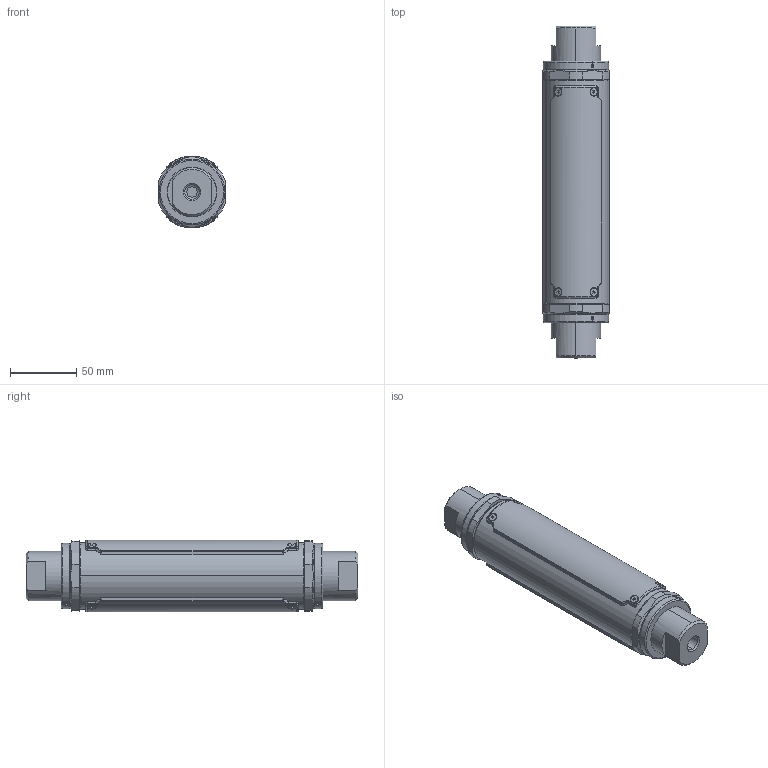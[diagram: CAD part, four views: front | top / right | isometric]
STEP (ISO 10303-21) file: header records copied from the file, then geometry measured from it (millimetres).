
FILE_DESCRIPTION (( 'STEP AP203' ), '1' );
FILE_NAME ('1644-D6-1-AA-0-0.STEP', '2022-09-12T14:03:44', ( '' ), ( '' ), 'SwSTEP 2.0', 'SolidWorks 2020', '' );
FILE_SCHEMA (( 'CONFIG_CONTROL_DESIGN' ));
Length unit declared in the file: inch
Products named in the file (1): 1644-D6-1-AA-0-0
Bounding box: 50 x 250 x 53.97 mm (x, y, z)
Volume: 449109.6 mm3; surface area: 81656.8 mm2
Topology: 3 solids, 5 shells, 721 faces, 1826 edges, 1140 vertices
Faces by surface type: cylinder 221, bspline 208, plane 186, cone 90, torus 16
Entity records: 31673 total; most frequent: CARTESIAN_POINT 16346, ORIENTED_EDGE 3620, DIRECTION 2498, EDGE_CURVE 1810, VERTEX_POINT 1140, AXIS2_PLACEMENT_3D 970, EDGE_LOOP 790, B_SPLINE_CURVE_WITH_KNOTS 764
